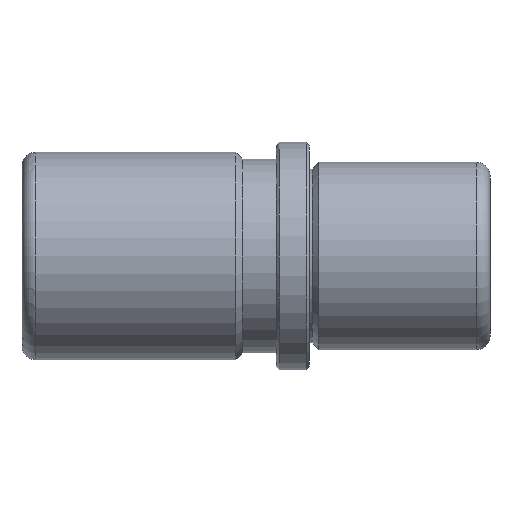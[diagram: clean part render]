
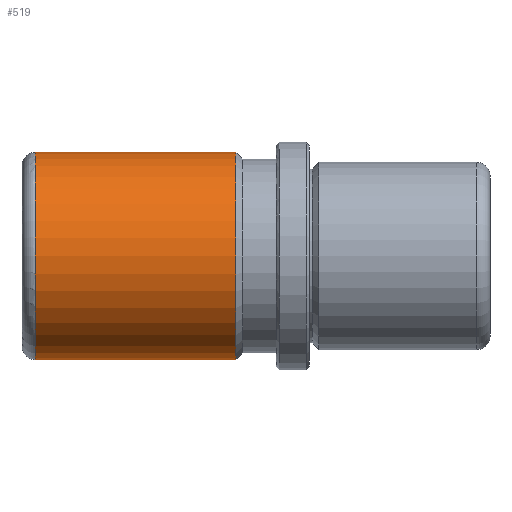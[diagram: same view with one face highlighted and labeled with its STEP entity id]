
A CAD part, front view. The second image highlights one B-rep face of the part: STEP entity #519.
In plain terms, the highlighted cylindrical face has radius 15.5 mm (diameter 31 mm), a partial arc.
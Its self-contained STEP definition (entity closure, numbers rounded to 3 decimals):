
#308=CARTESIAN_POINT('Line Origine',(27.,0.,15.5)) ;
#312=CARTESIAN_POINT('Vertex',(-11.,0.,15.5)) ;
#314=CARTESIAN_POINT('Vertex',(-41.,0.,15.5)) ;
#328=CARTESIAN_POINT('Vertex',(-11.,0.,-15.5)) ;
#331=CARTESIAN_POINT('Line Origine',(27.,0.,-15.5)) ;
#335=CARTESIAN_POINT('Vertex',(-41.,0.,-15.5)) ;
#482=CARTESIAN_POINT('Axis2P3D Location',(27.,0.,0.)) ;
#487=CARTESIAN_POINT('Axis2P3D Location',(-11.,0.,0.)) ;
#491=CARTESIAN_POINT('Vertex',(-11.,-15.5,0.)) ;
#494=CARTESIAN_POINT('Axis2P3D Location',(-11.,0.,0.)) ;
#499=CARTESIAN_POINT('Axis2P3D Location',(-41.,0.,0.)) ;
#503=CARTESIAN_POINT('Vertex',(-41.,-15.5,0.)) ;
#506=CARTESIAN_POINT('Axis2P3D Location',(-41.,0.,0.)) ;
#309=DIRECTION('Vector Direction',(-1.,0.,0.)) ;
#332=DIRECTION('Vector Direction',(-1.,0.,0.)) ;
#483=DIRECTION('Axis2P3D Direction',(-1.,-0.,-0.)) ;
#484=DIRECTION('Axis2P3D XDirection',(0.,0.,-1.)) ;
#488=DIRECTION('Axis2P3D Direction',(-1.,-0.,-0.)) ;
#495=DIRECTION('Axis2P3D Direction',(-1.,-0.,-0.)) ;
#500=DIRECTION('Axis2P3D Direction',(-1.,-0.,-0.)) ;
#507=DIRECTION('Axis2P3D Direction',(-1.,-0.,-0.)) ;
#485=AXIS2_PLACEMENT_3D('Cylinder Axis2P3D',#482,#483,#484) ;
#489=AXIS2_PLACEMENT_3D('Circle Axis2P3D',#487,#488,$) ;
#496=AXIS2_PLACEMENT_3D('Circle Axis2P3D',#494,#495,$) ;
#501=AXIS2_PLACEMENT_3D('Circle Axis2P3D',#499,#500,$) ;
#508=AXIS2_PLACEMENT_3D('Circle Axis2P3D',#506,#507,$) ;
#512=ORIENTED_EDGE('',*,*,#337,.T.) ;
#513=ORIENTED_EDGE('',*,*,#493,.F.) ;
#514=ORIENTED_EDGE('',*,*,#498,.F.) ;
#515=ORIENTED_EDGE('',*,*,#316,.T.) ;
#516=ORIENTED_EDGE('',*,*,#505,.T.) ;
#517=ORIENTED_EDGE('',*,*,#510,.T.) ;
#310=VECTOR('Line Direction',#309,1.) ;
#333=VECTOR('Line Direction',#332,1.) ;
#519=ADVANCED_FACE('FAMO-SF1-D19 x 70',(#518),#486,.T.) ;
#490=CIRCLE('generated circle',#489,15.5) ;
#497=CIRCLE('generated circle',#496,15.5) ;
#502=CIRCLE('generated circle',#501,15.5) ;
#509=CIRCLE('generated circle',#508,15.5) ;
#486=CYLINDRICAL_SURFACE('generated cylinder',#485,15.5) ;
#316=EDGE_CURVE('',#313,#315,#311,.T.) ;
#337=EDGE_CURVE('',#336,#329,#334,.F.) ;
#493=EDGE_CURVE('',#492,#329,#490,.F.) ;
#498=EDGE_CURVE('',#313,#492,#497,.F.) ;
#505=EDGE_CURVE('',#315,#504,#502,.F.) ;
#510=EDGE_CURVE('',#504,#336,#509,.F.) ;
#511=EDGE_LOOP('',(#512,#513,#514,#515,#516,#517)) ;
#518=FACE_OUTER_BOUND('',#511,.T.) ;
#311=LINE('Line',#308,#310) ;
#334=LINE('Line',#331,#333) ;
#313=VERTEX_POINT('',#312) ;
#315=VERTEX_POINT('',#314) ;
#329=VERTEX_POINT('',#328) ;
#336=VERTEX_POINT('',#335) ;
#492=VERTEX_POINT('',#491) ;
#504=VERTEX_POINT('',#503) ;
